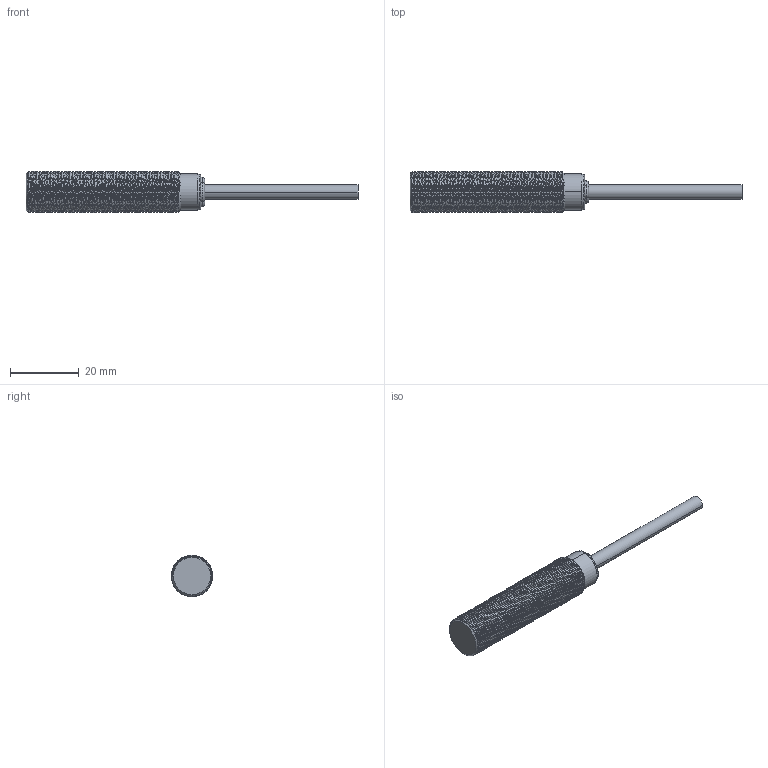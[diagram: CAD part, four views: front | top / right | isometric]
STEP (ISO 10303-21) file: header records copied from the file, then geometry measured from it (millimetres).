
FILE_DESCRIPTION((''),'2;1');
FILE_NAME('M12FLUSHCABLE_ASM','2020-10-28T',('Daisy.Wang'),(''),'CREO PARAMETRIC BY PTC INC, 2015480','CREO PARAMETRIC BY PTC INC, 2015480','');
FILE_SCHEMA(('CONFIG_CONTROL_DESIGN'));
Length unit declared in the file: millimetre
Products named in the file (12): MECK102; M12MYLAR; COPPER-FOIL-COIL; MAGNETIC; M12-COIL-SUPPORT; COIL-WITHCOPPER_ASM; M12CABLEFLUSHPCB; 1MP7064-0_05; CABLE; ORING-M12CABLE; ORING-M12-CABLE; M12FLUSHCABLE_ASM
Assembly tree (11 placements, depth 3):
  M12FLUSHCABLE_ASM
    MECK102
    M12MYLAR
    COIL-WITHCOPPER_ASM
      COPPER-FOIL-COIL
      MAGNETIC
      M12-COIL-SUPPORT
    M12CABLEFLUSHPCB
    1MP7064-0_05
    CABLE
    ORING-M12CABLE
    ORING-M12-CABLE
Bounding box: 96.55 x 12 x 12 mm (x, y, z)
Volume: 2912.6 mm3; surface area: 7448.7 mm2
Topology: 9 solids, 10 shells, 390 faces, 1003 edges, 640 vertices
Faces by surface type: cylinder 171, plane 81, bspline 60, torus 50, cone 28
Entity records: 34082 total; most frequent: CARTESIAN_POINT 25062, ORIENTED_EDGE 1994, DIRECTION 1590, EDGE_CURVE 1003, VERTEX_POINT 640, AXIS2_PLACEMENT_3D 628, EDGE_LOOP 411, B_SPLINE_CURVE_WITH_KNOTS 397
